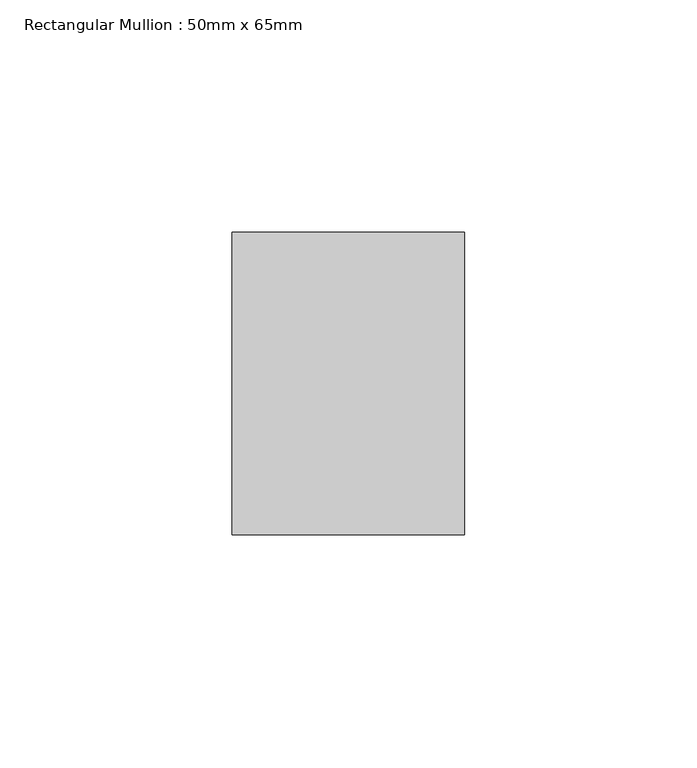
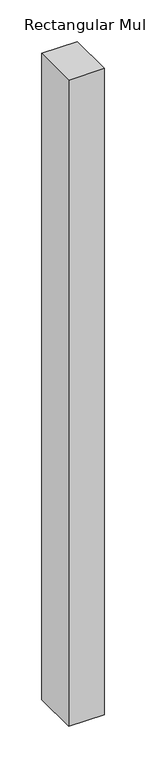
"""IFC4 building model written with IfcOpenShell, lengths in millimetres: member geometry, Rectangular Mullion : 50mm x 65mm."""

from ifc_helpers import new_model, si_unit, frame, origin, place, context, project, spatial, polyline, outline, extrude, source, transform, mapped, element, save


def rectangular_mullion_50mm_x_65mm_31c1307f(model_context):
    return source(origin(), model_context, "Body", "SweptSolid", [
        extrude(outline(polyline([(25.0, 32.5), (25.0, -32.5), (-25.0, -32.5), (-25.0, 32.5), (25.0, 32.5)])), frame((0.0, 0.0, -950.0), z_axis=(0.0, 0.0, 1.0), x_axis=(1.0, 0.0, 0.0)), (0.0, 0.0, 1.0), 950.0),
    ])


if __name__ == "__main__":
    model = new_model("IFC4")
    model_context = context("Model", 3, world=origin())
    ifc_project = project(units=[si_unit("LENGTHUNIT", "METRE", prefix="MILLI")], contexts=[model_context])
    site = spatial("IfcSite", under=ifc_project)
    building = spatial("IfcBuilding", under=site)
    placement = place(None, origin())
    rectangular_mullion_50mm_x_65mm_shape = rectangular_mullion_50mm_x_65mm_31c1307f(model_context)
    element("IfcMember", 1, ObjectType="Rectangular Mullion : 50mm x 65mm", at=placement, inside=building, context=model_context, shape_type="MappedRepresentation", body=[
        mapped(rectangular_mullion_50mm_x_65mm_shape, transform((0.0, 0.0, 0.0), x_axis=(1.0, 0.0, 0.0), y_axis=(0.0, 1.0, 0.0), z_axis=(0.0, 0.0, 1.0))),
    ])
    save(model, "model.ifc")
